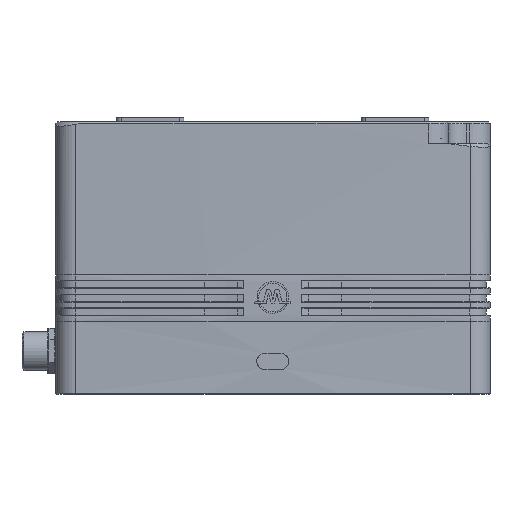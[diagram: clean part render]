
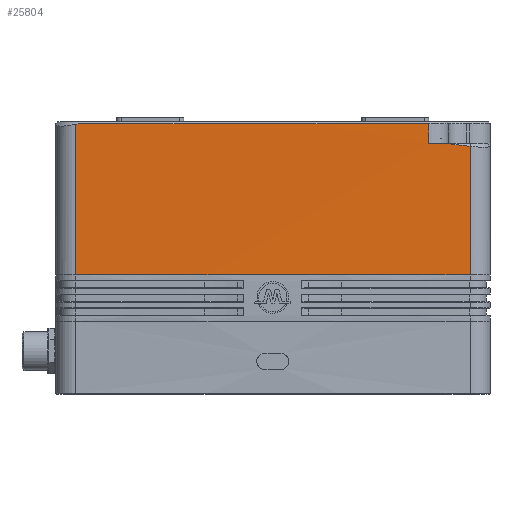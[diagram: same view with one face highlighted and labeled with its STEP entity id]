
A CAD part, front view. The second image highlights one B-rep face of the part: STEP entity #25804.
In plain terms, the highlighted cylindrical face has radius 1243.28 mm (diameter 2486.56 mm), a partial arc.
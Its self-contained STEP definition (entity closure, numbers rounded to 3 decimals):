
#93=ELLIPSE('',#27088,1765.371,1243.281);
#2328=B_SPLINE_CURVE_WITH_KNOTS('',3,(#59469,#59470,#59471,#59472),
 .UNSPECIFIED.,.F.,.F.,(4,4),(2.111,2.268),
 .UNSPECIFIED.);
#2474=CYLINDRICAL_SURFACE('',#27181,1243.281);
#2853=CIRCLE('',#27065,1243.281);
#2866=CIRCLE('',#27098,1243.281);
#2897=CIRCLE('',#27182,1243.281);
#4429=FACE_OUTER_BOUND('',#5972,.T.);
#5972=EDGE_LOOP('',(#23402,#23403,#23404,#23405,#23406,#23407,#23408,#23409));
#7953=LINE('',#59803,#9923);
#7954=LINE('',#59806,#9924);
#7966=LINE('',#59846,#9936);
#9923=VECTOR('',#31511,10.);
#9924=VECTOR('',#31514,10.);
#9936=VECTOR('',#31566,10.);
#12281=VERTEX_POINT('',#59439);
#12283=VERTEX_POINT('',#59445);
#12285=VERTEX_POINT('',#59454);
#12308=VERTEX_POINT('',#59538);
#12310=VERTEX_POINT('',#59541);
#12322=VERTEX_POINT('',#59601);
#12373=VERTEX_POINT('',#59805);
#12381=VERTEX_POINT('',#59845);
#15932=EDGE_CURVE('',#12281,#12283,#2853,.T.);
#15936=EDGE_CURVE('',#12283,#12285,#2328,.T.);
#15968=EDGE_CURVE('',#12310,#12308,#93,.T.);
#15986=EDGE_CURVE('',#12308,#12322,#2866,.T.);
#16074=EDGE_CURVE('',#12281,#12322,#7953,.T.);
#16075=EDGE_CURVE('',#12373,#12310,#7954,.T.);
#16094=EDGE_CURVE('',#12381,#12285,#7966,.T.);
#16095=EDGE_CURVE('',#12381,#12373,#2897,.T.);
#23402=ORIENTED_EDGE('',*,*,#15936,.T.);
#23403=ORIENTED_EDGE('',*,*,#16094,.F.);
#23404=ORIENTED_EDGE('',*,*,#16095,.T.);
#23405=ORIENTED_EDGE('',*,*,#16075,.T.);
#23406=ORIENTED_EDGE('',*,*,#15968,.T.);
#23407=ORIENTED_EDGE('',*,*,#15986,.T.);
#23408=ORIENTED_EDGE('',*,*,#16074,.F.);
#23409=ORIENTED_EDGE('',*,*,#15932,.T.);
#25804=ADVANCED_FACE('',(#4429),#2474,.T.);
#27065=AXIS2_PLACEMENT_3D('',#59447,#31229,#31230);
#27088=AXIS2_PLACEMENT_3D('',#59542,#31295,#31296);
#27098=AXIS2_PLACEMENT_3D('',#59603,#31324,#31325);
#27181=AXIS2_PLACEMENT_3D('',#59844,#31564,#31565);
#27182=AXIS2_PLACEMENT_3D('',#59847,#31567,#31568);
#31229=DIRECTION('center_axis',(0.,0.,-1.));
#31230=DIRECTION('ref_axis',(-0.04,-0.999,0.));
#31295=DIRECTION('center_axis',(-0.117,0.7,-0.704));
#31296=DIRECTION('ref_axis',(0.116,-0.695,-0.71));
#31324=DIRECTION('center_axis',(0.,0.,-1.));
#31325=DIRECTION('ref_axis',(-0.04,-0.999,0.));
#31511=DIRECTION('',(0.,0.,-1.));
#31514=DIRECTION('',(0.,0.,1.));
#31564=DIRECTION('center_axis',(0.,0.,1.));
#31565=DIRECTION('ref_axis',(-0.04,-0.999,0.));
#31566=DIRECTION('',(0.,0.,1.));
#31567=DIRECTION('center_axis',(0.,0.,1.));
#31568=DIRECTION('ref_axis',(-0.04,-0.999,0.));
#59439=CARTESIAN_POINT('',(39.497,-22.372,68.5));
#59445=CARTESIAN_POINT('',(-48.465,-22.055,68.5));
#59447=CARTESIAN_POINT('Origin',(0.,1220.281,
68.5));
#59454=CARTESIAN_POINT('',(-49.961,-21.996,68.338));
#59469=CARTESIAN_POINT('Ctrl Pts',(-48.465,-22.055,
68.5));
#59470=CARTESIAN_POINT('Ctrl Pts',(-48.986,-22.035,
68.5));
#59471=CARTESIAN_POINT('Ctrl Pts',(-49.482,-22.015,68.44));
#59472=CARTESIAN_POINT('Ctrl Pts',(-49.961,-21.996,
68.338));
#59538=CARTESIAN_POINT('',(44.066,-22.219,63.5));
#59541=CARTESIAN_POINT('',(49.961,-21.996,62.746));
#59542=CARTESIAN_POINT('Origin',(0.,1220.281,
1306.329));
#59601=CARTESIAN_POINT('',(39.497,-22.372,63.5));
#59603=CARTESIAN_POINT('Origin',(0.,1220.281,
63.5));
#59803=CARTESIAN_POINT('',(39.497,-22.372,69.));
#59805=CARTESIAN_POINT('',(49.961,-21.996,30.2));
#59806=CARTESIAN_POINT('',(49.961,-21.996,30.2));
#59844=CARTESIAN_POINT('Origin',(0.,1220.281,
30.2));
#59845=CARTESIAN_POINT('',(-49.961,-21.996,30.2));
#59846=CARTESIAN_POINT('',(-49.961,-21.996,30.2));
#59847=CARTESIAN_POINT('Origin',(0.,1220.281,
30.2));
